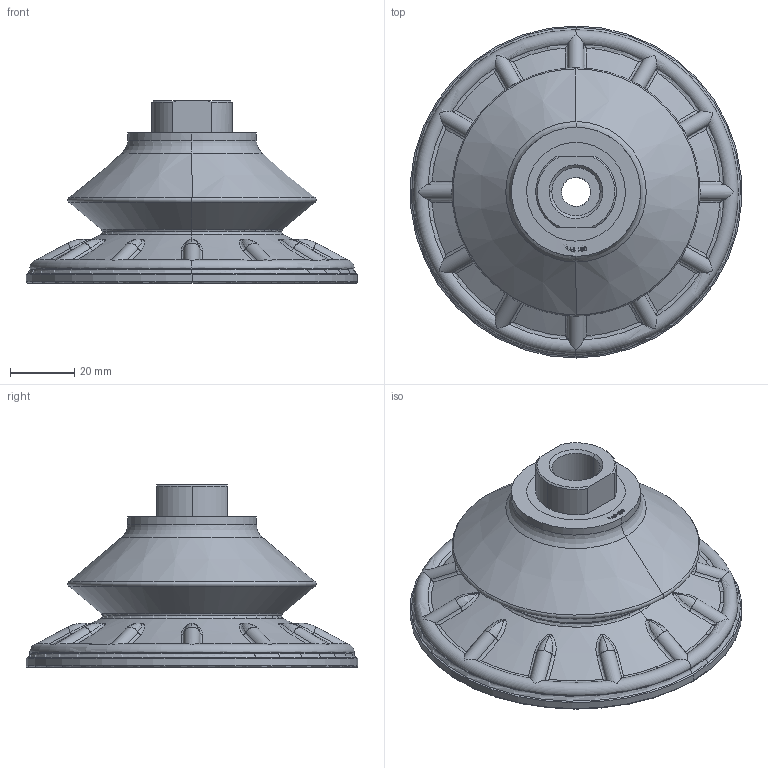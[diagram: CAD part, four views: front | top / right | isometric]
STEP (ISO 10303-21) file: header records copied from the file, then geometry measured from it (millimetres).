
FILE_DESCRIPTION (( 'STEP AP203' ), '1' );
FILE_NAME ('ZSAB100N-F03.STEP', '2022-03-31T14:29:11', ( '' ), ( '' ), 'SwSTEP 2.0', 'SolidWorks 2019', '' );
FILE_SCHEMA (( 'CONFIG_CONTROL_DESIGN' ));
Length unit declared in the file: millimetre
Products named in the file (1): ZSAB100N-F03
Bounding box: 102.74 x 103 x 56.62 mm (x, y, z)
Surface area: 28687.7 mm2 (no closed solid volume)
Topology: 0 solids, 1 shells, 161 faces, 433 edges, 282 vertices
Faces by surface type: bspline 55, torus 52, cylinder 23, plane 18, cone 13
Entity records: 13179 total; most frequent: CARTESIAN_POINT 10197, ORIENTED_EDGE 842, EDGE_CURVE 433, B_SPLINE_CURVE_WITH_KNOTS 397, VERTEX_POINT 282, DIRECTION 214, EDGE_LOOP 176, FACE_OUTER_BOUND 161
